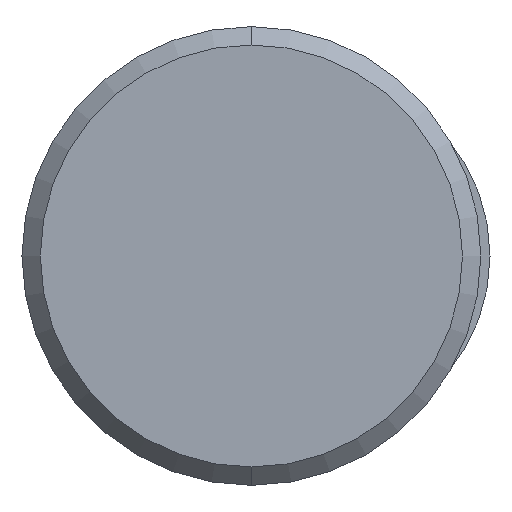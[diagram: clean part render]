
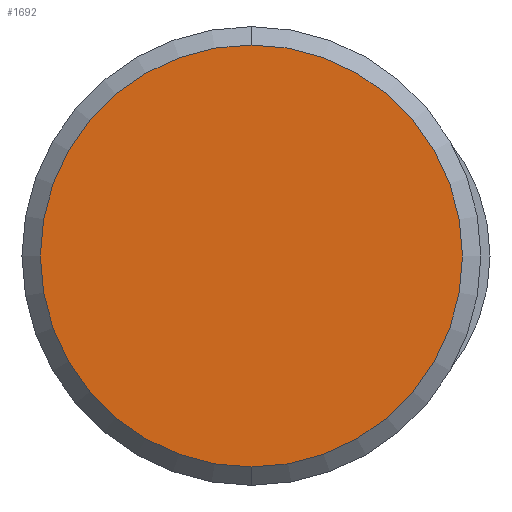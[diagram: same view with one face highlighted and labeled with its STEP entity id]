
A CAD part, left-side view. The second image highlights one B-rep face of the part: STEP entity #1692.
In plain terms, the highlighted planar face has unit normal (-1, 0, 0).
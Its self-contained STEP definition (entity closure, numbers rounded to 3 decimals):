
#1624=CARTESIAN_POINT('Vertex',(0.,0.,-23.)) ;
#1627=CARTESIAN_POINT('Axis2P3D Location',(0.,0.,0.)) ;
#1631=CARTESIAN_POINT('Vertex',(0.,23.,0.)) ;
#1634=CARTESIAN_POINT('Axis2P3D Location',(0.,0.,0.)) ;
#1638=CARTESIAN_POINT('Vertex',(0.,0.,23.)) ;
#1660=CARTESIAN_POINT('Axis2P3D Location',(0.,0.,0.)) ;
#1664=CARTESIAN_POINT('Vertex',(0.,-23.,0.)) ;
#1667=CARTESIAN_POINT('Axis2P3D Location',(0.,0.,0.)) ;
#1681=CARTESIAN_POINT('Axis2P3D Location',(0.,0.,0.)) ;
#1628=DIRECTION('Axis2P3D Direction',(1.,0.,-0.)) ;
#1635=DIRECTION('Axis2P3D Direction',(1.,0.,-0.)) ;
#1661=DIRECTION('Axis2P3D Direction',(1.,0.,-0.)) ;
#1668=DIRECTION('Axis2P3D Direction',(1.,0.,-0.)) ;
#1682=DIRECTION('Axis2P3D Direction',(1.,0.,-0.)) ;
#1683=DIRECTION('Axis2P3D XDirection',(-0.,0.,-1.)) ;
#1629=AXIS2_PLACEMENT_3D('Circle Axis2P3D',#1627,#1628,$) ;
#1636=AXIS2_PLACEMENT_3D('Circle Axis2P3D',#1634,#1635,$) ;
#1662=AXIS2_PLACEMENT_3D('Circle Axis2P3D',#1660,#1661,$) ;
#1669=AXIS2_PLACEMENT_3D('Circle Axis2P3D',#1667,#1668,$) ;
#1684=AXIS2_PLACEMENT_3D('Plane Axis2P3D',#1681,#1682,#1683) ;
#1687=ORIENTED_EDGE('',*,*,#1633,.F.) ;
#1688=ORIENTED_EDGE('',*,*,#1671,.F.) ;
#1689=ORIENTED_EDGE('',*,*,#1666,.F.) ;
#1690=ORIENTED_EDGE('',*,*,#1640,.F.) ;
#1692=ADVANCED_FACE('395A-040-225',(#1691),#1685,.F.) ;
#1630=CIRCLE('generated circle',#1629,23.) ;
#1637=CIRCLE('generated circle',#1636,23.) ;
#1663=CIRCLE('generated circle',#1662,23.) ;
#1670=CIRCLE('generated circle',#1669,23.) ;
#1633=EDGE_CURVE('',#1625,#1632,#1630,.T.) ;
#1640=EDGE_CURVE('',#1632,#1639,#1637,.T.) ;
#1666=EDGE_CURVE('',#1639,#1665,#1663,.T.) ;
#1671=EDGE_CURVE('',#1665,#1625,#1670,.T.) ;
#1686=EDGE_LOOP('',(#1687,#1688,#1689,#1690)) ;
#1691=FACE_OUTER_BOUND('',#1686,.T.) ;
#1685=PLANE('Plane',#1684) ;
#1625=VERTEX_POINT('',#1624) ;
#1632=VERTEX_POINT('',#1631) ;
#1639=VERTEX_POINT('',#1638) ;
#1665=VERTEX_POINT('',#1664) ;
